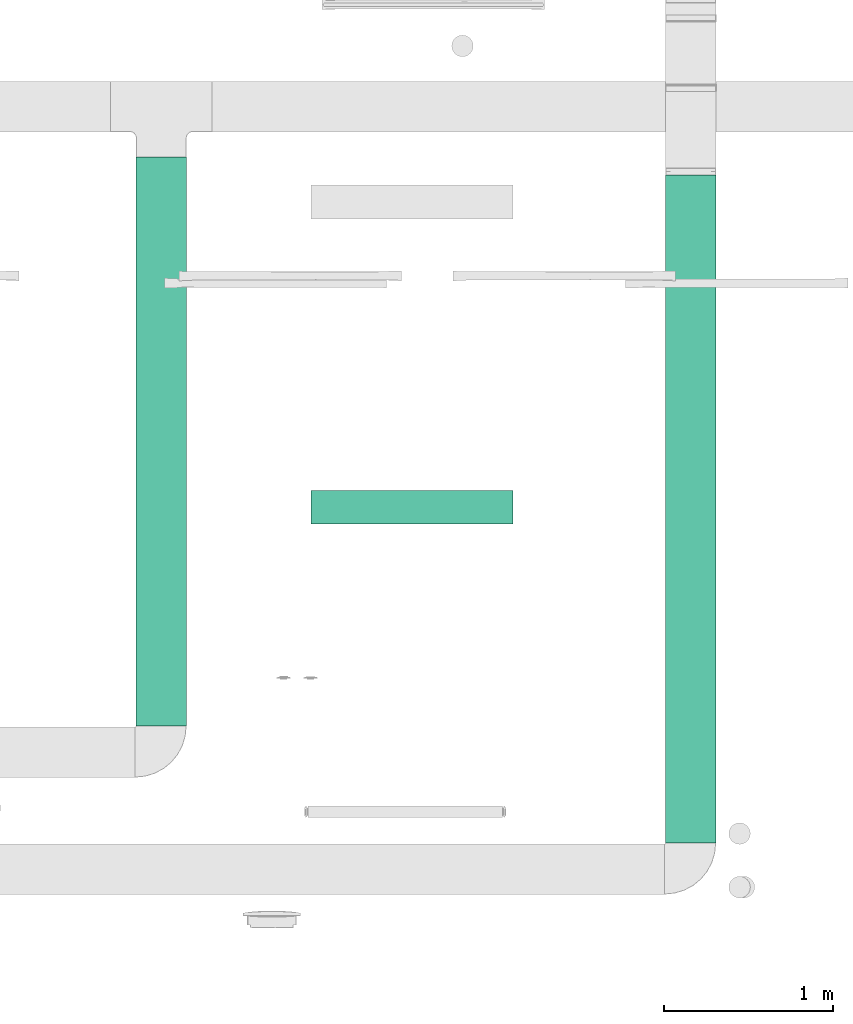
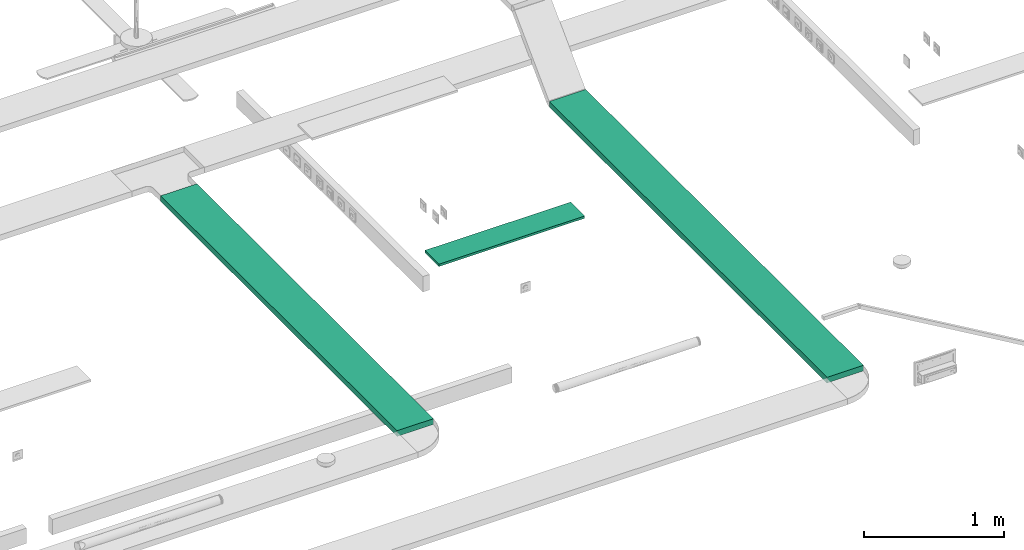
# One storey, part 13 of 153: 2 flow segments, 1 flow terminal.
"""IFC2X3 building model written with IfcOpenShell, lengths in metres."""

import ifcopenshell
import ifcopenshell.guid

model = None  # the IFC model being written
_history = None  # IfcOwnerHistory: only IFC2X3 demands one
_inside = {}  # id of a spatial element -> (the spatial element, [elements in it])
_under = {}  # id of a project, library or spatial element -> (it, [spatial elements below it])
_declared = {}  # id of a project -> (the project, [libraries it declares])
_typed = {}  # id of a type object -> (the type object, [elements of that type])
_made_of = {}  # id of a material, layer set ... -> (it, [elements and type objects made of it])


def new_model(schema):
    """Start an empty IFC model of exactly this schema.

    Asked for "IFC4X3", IfcOpenShell would pick the latest addendum, in which some entities
    have other attributes; the version numbers below select the first issue.
    IFC2X3 requires an IfcOwnerHistory on every rooted entity: one is made here for all.
    """
    global model, _history
    if schema == "IFC4X3":
        model = ifcopenshell.file(schema_version=(4, 3, 0, 0))
    else:
        model = ifcopenshell.file(schema=schema)
    _inside.clear()
    _under.clear()
    _declared.clear()
    _typed.clear()
    _made_of.clear()
    _history = None
    if model.schema == "IFC2X3":
        org = make("IfcOrganization", Name="unknown")
        user = make(
            "IfcPersonAndOrganization",
            ThePerson=make("IfcPerson", FamilyName="unknown"),
            TheOrganization=org,
        )
        app = make(
            "IfcApplication",
            ApplicationDeveloper=org,
            Version="unknown",
            ApplicationFullName="unknown",
            ApplicationIdentifier="unknown",
        )
        _history = make(
            "IfcOwnerHistory",
            OwningUser=user,
            OwningApplication=app,
            ChangeAction="ADDED",
            CreationDate=0,
        )
    return model


def make(cls, **values):
    """One entity of the class cls with the attributes given. An attribute that is None is left unset."""
    return model.create_entity(
        cls, **{name: value for name, value in values.items() if value is not None}
    )


def entity(cls, *values):
    """Any entity or typed value of the class cls, its attributes in the order of the schema. None: left unset."""
    e = model.create_entity(cls)
    for i, value in enumerate(values):
        if value is not None:
            e[i] = value
    return e


def rooted(cls, **values):
    """An entity with a GlobalId (a new one), such as an element, a storey or a relation."""
    return make(cls, GlobalId=ifcopenshell.guid.new(), OwnerHistory=_history, **values)


def si_unit(unit_type, name, prefix=None):
    """IfcSIUnit, for example si_unit("LENGTHUNIT", "METRE", prefix="MILLI")."""
    return make("IfcSIUnit", UnitType=unit_type, Prefix=prefix, Name=name)


def converted_unit(unit_type, name, factor, base, dimensions=None, offset=None):
    """IfcConversionBasedUnit, such as the inch: factor (a typed value) times the base unit."""
    return make(
        "IfcConversionBasedUnit"
        if offset is None
        else "IfcConversionBasedUnitWithOffset",
        ConversionOffset=offset,
        Dimensions=None
        if dimensions is None
        else entity("IfcDimensionalExponents", *dimensions),
        UnitType=unit_type,
        Name=name,
        ConversionFactor=make(
            "IfcMeasureWithUnit", ValueComponent=factor, UnitComponent=base
        ),
    )


def derived_unit(unit_type, elements):
    """IfcDerivedUnit: a product of units, each with its exponent."""
    return make(
        "IfcDerivedUnit",
        Elements=[
            make("IfcDerivedUnitElement", Unit=unit, Exponent=power)
            for unit, power in elements
        ],
        UnitType=unit_type,
    )


def assignment(units):
    """IfcUnitAssignment: the units of a project."""
    return None if units is None else make("IfcUnitAssignment", Units=units)


def point(xyz):
    """IfcCartesianPoint."""
    return None if xyz is None else make("IfcCartesianPoint", Coordinates=xyz)


def direction(xyz):
    """IfcDirection."""
    return None if xyz is None else make("IfcDirection", DirectionRatios=xyz)


def frame(location, z_axis=None, x_axis=None):
    """IfcAxis2Placement3D, a coordinate frame: its origin and axes. An axis left out is left unset."""
    return make(
        "IfcAxis2Placement3D",
        Location=point(location),
        Axis=direction(z_axis),
        RefDirection=direction(x_axis),
    )


def frame_2d(location, x_axis=None):
    """IfcAxis2Placement2D, a coordinate frame in the plane: its origin and x axis."""
    return make(
        "IfcAxis2Placement2D", Location=point(location), RefDirection=direction(x_axis)
    )


def origin():
    """The frame at (0, 0, 0) with its axes left unset."""
    return frame((0.0, 0.0, 0.0))


def origin_2d_with_axis():
    """The frame at (0, 0) in the plane with the x axis (1, 0) written out."""
    return frame_2d((0.0, 0.0), x_axis=(1.0, 0.0))


def place(relative_to, where):
    """IfcLocalPlacement: puts the frame where relative to a parent placement (None: the world)."""
    return make(
        "IfcLocalPlacement", PlacementRelTo=relative_to, RelativePlacement=where
    )


def context(
    kind, dimensions, precision=None, world=None, true_north=None, identifier=None
):
    """IfcGeometricRepresentationContext, for example the 3D "Model" context."""
    return make(
        "IfcGeometricRepresentationContext",
        ContextIdentifier=identifier,
        ContextType=kind,
        CoordinateSpaceDimension=dimensions,
        Precision=precision,
        WorldCoordinateSystem=world,
        TrueNorth=true_north,
    )


def subcontext(parent, identifier, kind, view, scale=None):
    """IfcGeometricRepresentationSubContext, for example "Body" below "Model"."""
    return make(
        "IfcGeometricRepresentationSubContext",
        ContextIdentifier=identifier,
        ContextType=kind,
        ParentContext=parent,
        TargetScale=scale,
        TargetView=view,
    )


def project(units=None, contexts=None):
    """IfcProject with its units and contexts."""
    return rooted(
        "IfcProject",
        Name="project",
        RepresentationContexts=contexts,
        UnitsInContext=assignment(units),
    )


def spatial(cls, under=None, at=None, **own):
    """A site, building, storey or space (cls), placed at a placement, below another one or the project."""
    s = rooted(cls, ObjectPlacement=at, **own)
    if under is not None:
        _under.setdefault(under.id(), (under, []))[1].append(s)
    return s


def profile(cls, at=None, kind="AREA", **sizes):
    """A parametric profile (cls). Its sizes go by their IFC names, for example OverallWidth=200.0."""
    return make(cls, ProfileType=kind, Position=at, **sizes)


def rectangle(**sizes):
    """IfcRectangleProfileDef."""
    return profile("IfcRectangleProfileDef", **sizes)


def extrude(swept, where, along, depth):
    """IfcExtrudedAreaSolid: the profile swept, set in the frame where, extruded along a direction by depth."""
    return make(
        "IfcExtrudedAreaSolid",
        SweptArea=swept,
        Position=where,
        ExtrudedDirection=direction(along),
        Depth=depth,
    )


def shape(context_of_items, identifier, shape_type, items):
    """IfcShapeRepresentation: the items that make up one representation, for example the "Body"."""
    return make(
        "IfcShapeRepresentation",
        ContextOfItems=context_of_items,
        RepresentationIdentifier=identifier,
        RepresentationType=shape_type,
        Items=items,
    )


def source(mapping_origin, context_of_items, identifier, shape_type, items):
    """IfcRepresentationMap: a shape defined once, which mapped items show again and again."""
    return make(
        "IfcRepresentationMap",
        MappingOrigin=mapping_origin,
        MappedRepresentation=shape(context_of_items, identifier, shape_type, items),
    )


def transform(
    local_origin,
    x_axis=None,
    y_axis=None,
    z_axis=None,
    scale=None,
    scale2=None,
    scale3=None,
    uniform=True,
):
    """IfcCartesianTransformationOperator3D, or its non-uniform kind. x_axis, y_axis, z_axis: its Axis1, 2, 3."""
    if uniform:
        return make(
            "IfcCartesianTransformationOperator3D",
            Axis1=direction(x_axis),
            Axis2=direction(y_axis),
            LocalOrigin=point(local_origin),
            Scale=scale,
            Axis3=direction(z_axis),
        )
    return make(
        "IfcCartesianTransformationOperator3DnonUniform",
        Axis1=direction(x_axis),
        Axis2=direction(y_axis),
        LocalOrigin=point(local_origin),
        Scale=scale,
        Axis3=direction(z_axis),
        Scale2=scale2,
        Scale3=scale3,
    )


def mapped(mapping_source, mapping_target):
    """IfcMappedItem: shows the shape of a source again, moved by a transform."""
    return make(
        "IfcMappedItem", MappingSource=mapping_source, MappingTarget=mapping_target
    )


def made_of(thing, what):
    """Note that an element or type object is made of a material, layer set ...; save() writes the relation."""
    if what is not None:
        _made_of.setdefault(what.id(), (what, []))[1].append(thing)
    return thing


def type_object(cls, material=None, **own):
    """A type object (cls), such as IfcWallType, which elements share."""
    return made_of(rooted(cls, **own), material)


def type_shapes(of_type, sources):
    """Give a type object the sources (RepresentationMaps) that its elements show as mapped items."""
    of_type.RepresentationMaps = sources


def element(
    cls,
    number,
    at=None,
    inside=None,
    cuts=None,
    type_object=None,
    material=None,
    context=None,
    identifier="Body",
    shape_type=None,
    held_by="IfcProductDefinitionShape",
    body=None,
    shapes=None,
    **own,
):
    """One element of the class cls, such as IfcWall. Its Tag is "e" and its number.

    at: its placement. inside: the storey or other place that contains it. cuts: it is an
    opening in that element (IfcRelVoidsElement). A single representation is given by context,
    identifier, shape_type and body (its items); several are given by shapes. held_by: the class
    of the entity that holds the representations. save() writes the other relations.
    """
    e = rooted(cls, Tag="e%d" % number, ObjectPlacement=at, **own)
    if body is not None:
        shapes = [shape(context, identifier, shape_type, body)]
    if shapes is not None:
        e.Representation = make(held_by, Representations=shapes)
    if inside is not None:
        _inside.setdefault(inside.id(), (inside, []))[1].append(e)
    if cuts is not None:
        rooted(
            "IfcRelVoidsElement", RelatingBuildingElement=cuts, RelatedOpeningElement=e
        )
    if type_object is not None:
        _typed.setdefault(type_object.id(), (type_object, []))[1].append(e)
    return made_of(e, material)


def aggregate(whole, parts):
    """IfcRelAggregates: a whole, such as a stair, and the parts it consists of."""
    return rooted("IfcRelAggregates", RelatingObject=whole, RelatedObjects=parts)


def save(model, path):
    """Write the relations noted so far, then the file.

    IfcRelAggregates (storeys below a building ...), IfcRelContainedInSpatialStructure (elements
    in a storey), IfcRelDefinesByType, IfcRelAssociatesMaterial and IfcRelDeclares: one each for
    every whole, place, type object, material and project.
    """
    for whole, parts in _under.values():
        aggregate(whole, parts)
    for where, things in _inside.values():
        rooted(
            "IfcRelContainedInSpatialStructure",
            RelatedElements=things,
            RelatingStructure=where,
        )
    for kind, things in _typed.values():
        rooted("IfcRelDefinesByType", RelatedObjects=things, RelatingType=kind)
    for what, things in _made_of.values():
        rooted("IfcRelAssociatesMaterial", RelatedObjects=things, RelatingMaterial=what)
    for by, libraries in _declared.values():
        rooted("IfcRelDeclares", RelatingContext=by, RelatedDefinitions=libraries)
    model.write(path)


model = new_model("IFC2X3")

# Units and contexts
model_context = context("Model", 3, precision=1e-05, world=origin(), true_north=direction((6.12303176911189e-17, 1.0)))
body_context = subcontext(model_context, "Body", "Model", "MODEL_VIEW")
ifc_project = project(units=[si_unit("LENGTHUNIT", "METRE"), si_unit("AREAUNIT", "SQUARE_METRE"), si_unit("VOLUMEUNIT", "CUBIC_METRE"), converted_unit("PLANEANGLEUNIT", "DEGREE", entity("IfcRatioMeasure", 0.0174532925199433), si_unit("PLANEANGLEUNIT", "RADIAN"), dimensions=[0, 0, 0, 0, 0, 0, 0]), si_unit("MASSUNIT", "GRAM", prefix="KILO"), derived_unit("MASSDENSITYUNIT", [(si_unit("MASSUNIT", "GRAM", prefix="KILO"), 1), (si_unit("LENGTHUNIT", "METRE"), -3)]), si_unit("TIMEUNIT", "SECOND"), si_unit("FREQUENCYUNIT", "HERTZ"), si_unit("THERMODYNAMICTEMPERATUREUNIT", "DEGREE_CELSIUS"), derived_unit("THERMALTRANSMITTANCEUNIT", [(si_unit("MASSUNIT", "GRAM", prefix="KILO"), 1), (si_unit("THERMODYNAMICTEMPERATUREUNIT", "KELVIN"), -1), (si_unit("TIMEUNIT", "SECOND"), -3)]), derived_unit("VOLUMETRICFLOWRATEUNIT", [(si_unit("LENGTHUNIT", "METRE"), 3), (si_unit("TIMEUNIT", "SECOND"), -1)]), si_unit("ELECTRICCURRENTUNIT", "AMPERE"), si_unit("ELECTRICVOLTAGEUNIT", "VOLT"), si_unit("POWERUNIT", "WATT"), si_unit("FORCEUNIT", "NEWTON"), si_unit("ILLUMINANCEUNIT", "LUX"), si_unit("LUMINOUSFLUXUNIT", "LUMEN"), si_unit("LUMINOUSINTENSITYUNIT", "CANDELA"), derived_unit("USERDEFINED", [(si_unit("MASSUNIT", "GRAM", prefix="KILO"), -1), (si_unit("LENGTHUNIT", "METRE"), -2), (si_unit("TIMEUNIT", "SECOND"), 3), (si_unit("LUMINOUSFLUXUNIT", "LUMEN"), 1)]), derived_unit("LINEARVELOCITYUNIT", [(si_unit("LENGTHUNIT", "METRE"), 1), (si_unit("TIMEUNIT", "SECOND"), -1)]), si_unit("PRESSUREUNIT", "PASCAL"), derived_unit("USERDEFINED", [(si_unit("LENGTHUNIT", "METRE"), -2), (si_unit("MASSUNIT", "GRAM", prefix="KILO"), 1), (si_unit("TIMEUNIT", "SECOND"), -2)])], contexts=[model_context])

# Site, building, storey
site_placement = place(None, origin())
site = spatial("IfcSite", under=ifc_project, at=site_placement, Name="Default", CompositionType="ELEMENT")
building_placement = place(site_placement, origin())
building = spatial("IfcBuilding", under=site, at=building_placement, CompositionType="ELEMENT")
storey_placement = place(building_placement, frame((0.0, 0.0, -4.62)))
storey = spatial("IfcBuildingStorey", under=building, at=storey_placement, Name="S02", CompositionType="ELEMENT", Elevation=-4.62)

# Flow segments
cable_carrier_segment_type = type_object("IfcCableCarrierSegmentType", Name="Cable Tray with Fittings:Chemins de câbles en treillis_Chemins de câbles en treillis", PredefinedType="NOTDEFINED")
flow_segment_1_placement = place(storey_placement, origin())
element("IfcFlowSegment", 1, at=flow_segment_1_placement, inside=storey, type_object=cable_carrier_segment_type, Name="Cable Tray with Fittings:Chemins de câbles en treillis_Chemins de câbles en treillis", ObjectType="Cable Tray with Fittings:Chemins de câbles en treillis_Chemins de câbles en treillis", context=body_context, shape_type="SweptSolid", body=[
    extrude(rectangle(XDim=3.37523306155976, YDim=0.300000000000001, at=frame_2d((-1.73194791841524e-14, -4.32986979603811e-15), x_axis=(1.0, 0.0))), frame((54.0583394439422, -191.853443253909, 3.764), z_axis=(0.0, 0.0, 1.0), x_axis=(0.0, -1.0, 0.0)), (0.0, 0.0, 1.0), 0.05),
])
flow_segment_2_placement = place(building_placement, frame((0.0, 0.0, -4.62)))
element("IfcFlowSegment", 2, at=flow_segment_2_placement, inside=storey, type_object=cable_carrier_segment_type, Name="Cable Tray with Fittings:Chemins de câbles en treillis_Chemins de câbles en treillis", ObjectType="Cable Tray with Fittings:Chemins de câbles en treillis_Chemins de câbles en treillis", context=body_context, shape_type="SweptSolid", body=[
    extrude(rectangle(XDim=3.96289589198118, YDim=0.300000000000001, at=frame_2d((-1.73194791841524e-14, 0.0), x_axis=(1.0, 0.0))), frame((57.2004483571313, -192.253387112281, 3.54999980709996), z_axis=(0.0, 0.0, 1.0), x_axis=(0.0, 1.0, 0.0)), (0.0, 0.0, 1.0), 0.05),
])

# Flow terminal
light_fixture_type = type_object("IfcLightFixtureType", Name="B_Réglete étanche", PredefinedType="NOTDEFINED")
shared_shape = source(origin(), body_context, "Body", "SweptSolid", [
    extrude(rectangle(XDim=0.199999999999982, YDim=1.2, at=origin_2d_with_axis()), frame((0.0, 0.0, 0.0), z_axis=(0.0, 0.0, 1.0), x_axis=(0.0, 1.0, 0.0)), (0.0, 0.0, 1.0), 0.02),
])
type_shapes(light_fixture_type, [shared_shape])
flow_terminal_placement = place(storey_placement, frame((55.5456087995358, -192.243084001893, 4.175), z_axis=(0.0, 0.0, -1.0), x_axis=(-1.0, 0.0, 0.0)))
element("IfcFlowTerminal", 3, at=flow_terminal_placement, inside=storey, type_object=light_fixture_type, Name="II_PREF_Type B Réglette étanche:B_Réglete étanche", ObjectType="II_PREF_Type B Réglette étanche:B_Réglete étanche", context=body_context, shape_type="MappedRepresentation", body=[
    mapped(shared_shape, transform((0.0, 0.0, 0.0), scale=1.0)),
])

save(model, "model.ifc")
